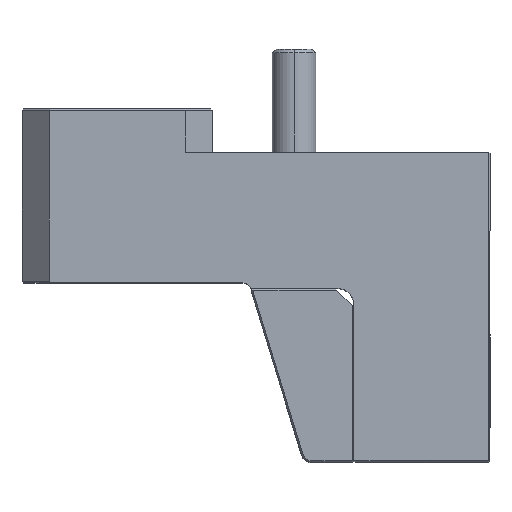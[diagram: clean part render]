
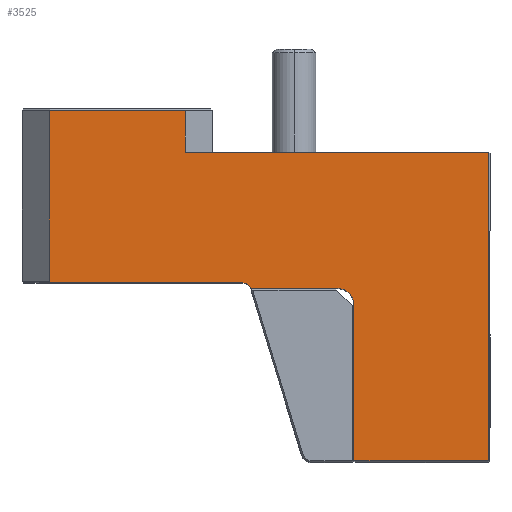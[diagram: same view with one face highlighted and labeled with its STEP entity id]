
A CAD part, top view. The second image highlights one B-rep face of the part: STEP entity #3525.
In plain terms, the highlighted planar face has unit normal (0, 0, 1).
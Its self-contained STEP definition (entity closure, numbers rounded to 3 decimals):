
#246 = AXIS2_PLACEMENT_3D ( 'NONE', #2644, #2624, #2641 ) ;
#382 = ORIENTED_EDGE ( 'NONE', *, *, #3447, .T. ) ;
#385 = ORIENTED_EDGE ( 'NONE', *, *, #3490, .T. ) ;
#521 = CARTESIAN_POINT ( 'NONE',  ( 50.7, -32.7, 24. ) ) ;
#539 = CARTESIAN_POINT ( 'NONE',  ( -30., 31.7, 24. ) ) ;
#761 = VERTEX_POINT ( 'NONE', #955 ) ;
#762 = VERTEX_POINT ( 'NONE', #992 ) ;
#771 = VERTEX_POINT ( 'NONE', #964 ) ;
#777 = VERTEX_POINT ( 'NONE', #969 ) ;
#781 = VERTEX_POINT ( 'NONE', #965 ) ;
#782 = VERTEX_POINT ( 'NONE', #967 ) ;
#805 = VERTEX_POINT ( 'NONE', #1040 ) ;
#820 = VERTEX_POINT ( 'NONE', #1021 ) ;
#827 = VERTEX_POINT ( 'NONE', #1012 ) ;
#845 = VERTEX_POINT ( 'NONE', #1031 ) ;
#870 = VERTEX_POINT ( 'NONE', #521 ) ;
#885 = VERTEX_POINT ( 'NONE', #539 ) ;
#955 = CARTESIAN_POINT ( 'NONE',  ( 5.586, 0., 24. ) ) ;
#964 = CARTESIAN_POINT ( 'NONE',  ( 26., -4., 24. ) ) ;
#965 = CARTESIAN_POINT ( 'NONE',  ( 23., -1., 24. ) ) ;
#967 = CARTESIAN_POINT ( 'NONE',  ( -30., 0.3, 24. ) ) ;
#969 = CARTESIAN_POINT ( 'NONE',  ( 50.7, 24., 24. ) ) ;
#992 = CARTESIAN_POINT ( 'NONE',  ( -5., 24., 24. ) ) ;
#1012 = CARTESIAN_POINT ( 'NONE',  ( -5., 31.7, 24. ) ) ;
#1021 = CARTESIAN_POINT ( 'NONE',  ( 7., -1., 24. ) ) ;
#1031 = CARTESIAN_POINT ( 'NONE',  ( -29.576, 0., 24. ) ) ;
#1040 = CARTESIAN_POINT ( 'NONE',  ( 26., -32.7, 24. ) ) ;
#1063 = VECTOR ( 'NONE', #1895, 1000. ) ;
#1222 = EDGE_LOOP ( 'NONE', ( #2794, #3056, #2791, #3040, #2886, #2799, #382, #2868, #3055, #385, #2870, #2788 ) ) ;
#1782 = DIRECTION ( 'NONE',  ( 0., 1., 0. ) ) ;
#1783 = LINE ( 'NONE', #1793, #2932 ) ;
#1793 = CARTESIAN_POINT ( 'NONE',  ( 50.7, -1.5, 24. ) ) ;
#1862 = DIRECTION ( 'NONE',  ( -1., 0., 0. ) ) ;
#1869 = LINE ( 'NONE', #1884, #1063 ) ;
#1875 = LINE ( 'NONE', #1902, #3189 ) ;
#1884 = CARTESIAN_POINT ( 'NONE',  ( 26., -1., 24. ) ) ;
#1895 = DIRECTION ( 'NONE',  ( 0., -1., 0. ) ) ;
#1902 = CARTESIAN_POINT ( 'NONE',  ( 51., 24., 24. ) ) ;
#1907 = LINE ( 'NONE', #1921, #3207 ) ;
#1921 = CARTESIAN_POINT ( 'NONE',  ( 7., -1., 24. ) ) ;
#1934 = DIRECTION ( 'NONE',  ( 1., 0., 0. ) ) ;
#2105 = CARTESIAN_POINT ( 'NONE',  ( 5.586, -1.5, 24. ) ) ;
#2106 = DIRECTION ( 'NONE',  ( 0., 0., -1. ) ) ;
#2112 = CARTESIAN_POINT ( 'NONE',  ( 5.586, -32.7, 24. ) ) ;
#2127 = DIRECTION ( 'NONE',  ( -1., 0., 0. ) ) ;
#2132 = LINE ( 'NONE', #2112, #2831 ) ;
#2144 = CARTESIAN_POINT ( 'NONE',  ( -30., -1.5, 24. ) ) ;
#2147 = DIRECTION ( 'NONE',  ( 0., -1., 0. ) ) ;
#2151 = LINE ( 'NONE', #2188, #2855 ) ;
#2152 = DIRECTION ( 'NONE',  ( 0., 1., 0. ) ) ;
#2154 = DIRECTION ( 'NONE',  ( 1., 0., 0. ) ) ;
#2157 = CARTESIAN_POINT ( 'NONE',  ( 5.586, 31.7, 24. ) ) ;
#2158 = DIRECTION ( 'NONE',  ( -1., 0., 0. ) ) ;
#2160 = LINE ( 'NONE', #2144, #2852 ) ;
#2171 = LINE ( 'NONE', #2157, #2833 ) ;
#2188 = CARTESIAN_POINT ( 'NONE',  ( -5., -1.5, 24. ) ) ;
#2415 = CARTESIAN_POINT ( 'NONE',  ( 23., -4., 24. ) ) ;
#2449 = DIRECTION ( 'NONE',  ( -1., 0., 0. ) ) ;
#2456 = DIRECTION ( 'NONE',  ( 0., 0., -1. ) ) ;
#2465 = LINE ( 'NONE', #2499, #2915 ) ;
#2474 = DIRECTION ( 'NONE',  ( 0.816, -0.577, 0. ) ) ;
#2499 = CARTESIAN_POINT ( 'NONE',  ( -31.384, 1.279, 24. ) ) ;
#2604 = DIRECTION ( 'NONE',  ( 1., 0., 0. ) ) ;
#2606 = PLANE ( 'NONE',  #246 ) ;
#2623 = FACE_OUTER_BOUND ( 'NONE', #1222, .T. ) ;
#2624 = DIRECTION ( 'NONE',  ( 0., 0., -1. ) ) ;
#2640 = CARTESIAN_POINT ( 'NONE',  ( -35., 0., 24. ) ) ;
#2641 = DIRECTION ( 'NONE',  ( -1., 0., 0. ) ) ;
#2644 = CARTESIAN_POINT ( 'NONE',  ( 5.586, -1.5, 24. ) ) ;
#2648 = LINE ( 'NONE', #2640, #2966 ) ;
#2788 = ORIENTED_EDGE ( 'NONE', *, *, #3431, .T. ) ;
#2791 = ORIENTED_EDGE ( 'NONE', *, *, #3374, .T. ) ;
#2794 = ORIENTED_EDGE ( 'NONE', *, *, #3386, .T. ) ;
#2799 = ORIENTED_EDGE ( 'NONE', *, *, #3377, .T. ) ;
#2831 = VECTOR ( 'NONE', #2154, 1000. ) ;
#2833 = VECTOR ( 'NONE', #2158, 1000. ) ;
#2844 = CIRCLE ( 'NONE', #2861, 1.5 ) ;
#2852 = VECTOR ( 'NONE', #2147, 1000. ) ;
#2855 = VECTOR ( 'NONE', #2152, 1000. ) ;
#2861 = AXIS2_PLACEMENT_3D ( 'NONE', #2105, #2106, #2127 ) ;
#2868 = ORIENTED_EDGE ( 'NONE', *, *, #3441, .T. ) ;
#2870 = ORIENTED_EDGE ( 'NONE', *, *, #3522, .T. ) ;
#2886 = ORIENTED_EDGE ( 'NONE', *, *, #3468, .T. ) ;
#2904 = CIRCLE ( 'NONE', #2938, 3. ) ;
#2915 = VECTOR ( 'NONE', #2474, 1000. ) ;
#2932 = VECTOR ( 'NONE', #1782, 1000. ) ;
#2938 = AXIS2_PLACEMENT_3D ( 'NONE', #2415, #2456, #2449 ) ;
#2966 = VECTOR ( 'NONE', #2604, 1000. ) ;
#3040 = ORIENTED_EDGE ( 'NONE', *, *, #3434, .T. ) ;
#3055 = ORIENTED_EDGE ( 'NONE', *, *, #3444, .T. ) ;
#3056 = ORIENTED_EDGE ( 'NONE', *, *, #3477, .T. ) ;
#3189 = VECTOR ( 'NONE', #1862, 1000. ) ;
#3207 = VECTOR ( 'NONE', #1934, 1000. ) ;
#3374 = EDGE_CURVE ( 'NONE', #771, #805, #1869, .T. ) ;
#3377 = EDGE_CURVE ( 'NONE', #777, #762, #1875, .T. ) ;
#3386 = EDGE_CURVE ( 'NONE', #820, #781, #1907, .T. ) ;
#3431 = EDGE_CURVE ( 'NONE', #761, #820, #2844, .T. ) ;
#3434 = EDGE_CURVE ( 'NONE', #805, #870, #2132, .T. ) ;
#3441 = EDGE_CURVE ( 'NONE', #827, #885, #2171, .T. ) ;
#3444 = EDGE_CURVE ( 'NONE', #885, #782, #2160, .T. ) ;
#3447 = EDGE_CURVE ( 'NONE', #762, #827, #2151, .T. ) ;
#3468 = EDGE_CURVE ( 'NONE', #870, #777, #1783, .T. ) ;
#3477 = EDGE_CURVE ( 'NONE', #781, #771, #2904, .T. ) ;
#3490 = EDGE_CURVE ( 'NONE', #782, #845, #2465, .T. ) ;
#3522 = EDGE_CURVE ( 'NONE', #845, #761, #2648, .T. ) ;
#3525 = ADVANCED_FACE ( 'NONE', ( #2623 ), #2606, .F. ) ;
